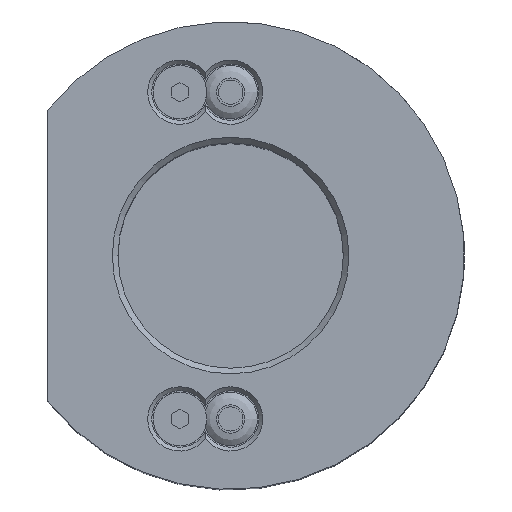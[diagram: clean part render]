
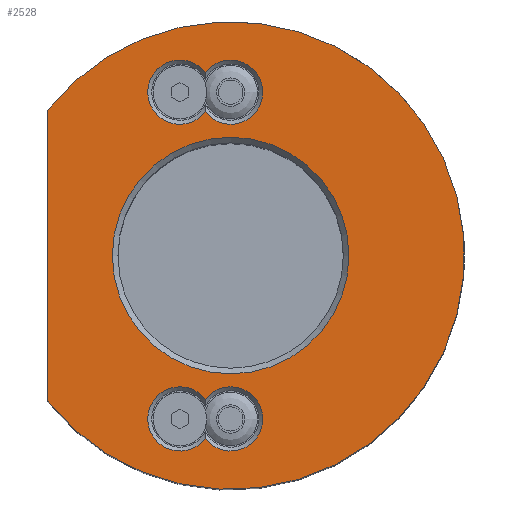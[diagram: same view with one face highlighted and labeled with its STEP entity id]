
A CAD part, top view. The second image highlights one B-rep face of the part: STEP entity #2528.
In plain terms, the highlighted planar face has unit normal (0, 0, 1).
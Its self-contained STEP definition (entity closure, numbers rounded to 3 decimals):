
#109=FACE_BOUND('',#818,.T.);
#110=FACE_BOUND('',#819,.T.);
#111=FACE_BOUND('',#820,.T.);
#194=LINE('',#3851,#429);
#429=VECTOR('',#3093,10.);
#660=FACE_OUTER_BOUND('',#817,.T.);
#817=EDGE_LOOP('',(#1787,#1788));
#818=EDGE_LOOP('',(#1789,#1790));
#819=EDGE_LOOP('',(#1791,#1792));
#820=EDGE_LOOP('',(#1793));
#971=CIRCLE('',#2718,21.);
#974=CIRCLE('',#2722,41.5);
#975=CIRCLE('',#2723,5.7);
#976=CIRCLE('',#2724,5.7);
#977=CIRCLE('',#2725,5.7);
#978=CIRCLE('',#2726,5.7);
#1078=VERTEX_POINT('',#3841);
#1081=VERTEX_POINT('',#3849);
#1082=VERTEX_POINT('',#3850);
#1083=VERTEX_POINT('',#3853);
#1084=VERTEX_POINT('',#3854);
#1085=VERTEX_POINT('',#3857);
#1086=VERTEX_POINT('',#3858);
#1346=EDGE_CURVE('',#1078,#1078,#971,.T.);
#1350=EDGE_CURVE('',#1081,#1082,#194,.T.);
#1351=EDGE_CURVE('',#1081,#1082,#974,.T.);
#1352=EDGE_CURVE('',#1083,#1084,#975,.T.);
#1353=EDGE_CURVE('',#1084,#1083,#976,.T.);
#1354=EDGE_CURVE('',#1085,#1086,#977,.T.);
#1355=EDGE_CURVE('',#1086,#1085,#978,.T.);
#1787=ORIENTED_EDGE('',*,*,#1350,.T.);
#1788=ORIENTED_EDGE('',*,*,#1351,.F.);
#1789=ORIENTED_EDGE('',*,*,#1352,.F.);
#1790=ORIENTED_EDGE('',*,*,#1353,.F.);
#1791=ORIENTED_EDGE('',*,*,#1354,.F.);
#1792=ORIENTED_EDGE('',*,*,#1355,.F.);
#1793=ORIENTED_EDGE('',*,*,#1346,.F.);
#2407=PLANE('',#2721);
#2528=ADVANCED_FACE('',(#660,#109,#110,#111),#2407,.T.);
#2718=AXIS2_PLACEMENT_3D('',#3842,#3084,#3085);
#2721=AXIS2_PLACEMENT_3D('',#3848,#3091,#3092);
#2722=AXIS2_PLACEMENT_3D('',#3852,#3094,#3095);
#2723=AXIS2_PLACEMENT_3D('',#3855,#3096,#3097);
#2724=AXIS2_PLACEMENT_3D('',#3856,#3098,#3099);
#2725=AXIS2_PLACEMENT_3D('',#3859,#3100,#3101);
#2726=AXIS2_PLACEMENT_3D('',#3860,#3102,#3103);
#3084=DIRECTION('center_axis',(0.,0.,1.));
#3085=DIRECTION('ref_axis',(0.,1.,0.));
#3091=DIRECTION('center_axis',(0.,0.,1.));
#3092=DIRECTION('ref_axis',(1.,0.,0.));
#3093=DIRECTION('',(0.,-1.,0.));
#3094=DIRECTION('center_axis',(0.,0.,-1.));
#3095=DIRECTION('ref_axis',(1.,0.,0.));
#3096=DIRECTION('center_axis',(0.,0.,1.));
#3097=DIRECTION('ref_axis',(-1.,0.,0.));
#3098=DIRECTION('center_axis',(0.,0.,1.));
#3099=DIRECTION('ref_axis',(1.,0.,0.));
#3100=DIRECTION('center_axis',(0.,0.,1.));
#3101=DIRECTION('ref_axis',(1.,0.,0.));
#3102=DIRECTION('center_axis',(0.,0.,1.));
#3103=DIRECTION('ref_axis',(-1.,0.,0.));
#3841=CARTESIAN_POINT('',(0.,-21.,150.));
#3842=CARTESIAN_POINT('Origin',(0.,0.,150.));
#3848=CARTESIAN_POINT('Origin',(0.,-41.5,150.));
#3849=CARTESIAN_POINT('',(-32.5,25.807,150.));
#3850=CARTESIAN_POINT('',(-32.5,-25.807,150.));
#3851=CARTESIAN_POINT('',(-32.5,-20.75,150.));
#3852=CARTESIAN_POINT('Origin',(0.,0.,150.));
#3853=CARTESIAN_POINT('',(-4.5,-25.501,150.));
#3854=CARTESIAN_POINT('',(-4.5,-32.499,150.));
#3855=CARTESIAN_POINT('Origin',(-9.,-29.,150.));
#3856=CARTESIAN_POINT('Origin',(0.,-29.,150.));
#3857=CARTESIAN_POINT('',(-4.5,25.501,150.));
#3858=CARTESIAN_POINT('',(-4.5,32.499,150.));
#3859=CARTESIAN_POINT('Origin',(0.,29.,150.));
#3860=CARTESIAN_POINT('Origin',(-9.,29.,150.));
